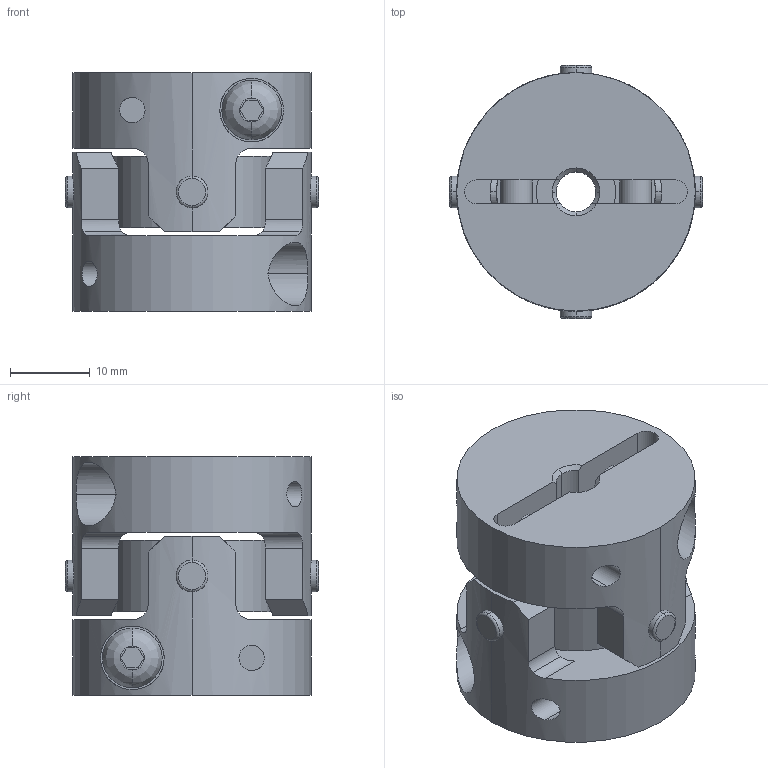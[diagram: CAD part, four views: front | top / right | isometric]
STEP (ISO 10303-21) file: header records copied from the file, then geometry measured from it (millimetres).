
FILE_DESCRIPTION((''),'2;1');
FILE_NAME('UA-30C-5×5.stp','2013-11-12T14:22:02',(''),(''),'AutoCAD STEP 2000i','AutoCAD 2000i',', , ');
FILE_SCHEMA(('CONFIG_CONTROL_DESIGN'));
Length unit declared in the file: millimetre
Products named in the file (6): UA-30C-6×6; 忣兜1; UA-3002-D06-1; BTN-M4; UA-3002-D06; UA30-SEN
Assembly tree (6 placements, depth 3):
  UA-30C-6×6
    忣兜1
    UA-3002-D06-1
      BTN-M4
    UA-3002-D06
      BTN-M4
    UA30-SEN
Bounding box: 31.82 x 31.82 x 30 mm (x, y, z)
Volume: 15102.2 mm3; surface area: 8928.6 mm2
Topology: 1 solids, 1 shells, 206 faces, 554 edges, 364 vertices
Faces by surface type: cylinder 96, plane 78, cone 16, bspline 8, torus 8
Entity records: 8479 total; most frequent: CARTESIAN_POINT 3163, ORIENTED_EDGE 1108, DIRECTION 1064, EDGE_CURVE 554, AXIS2_PLACEMENT_3D 409, VERTEX_POINT 364, VECTOR 246, LINE 246
